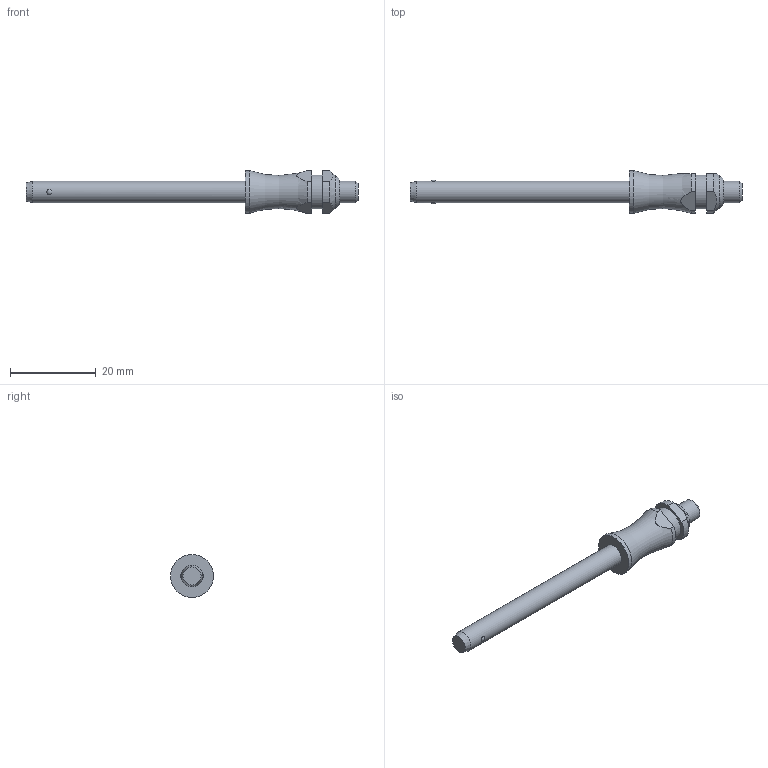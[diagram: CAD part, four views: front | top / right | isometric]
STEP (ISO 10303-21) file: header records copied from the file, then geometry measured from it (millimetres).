
FILE_DESCRIPTION( ( 'STEP AP203' ), '1' );
FILE_NAME( 'C:/Temp/Ganter_Step_05_03_2020/data/3_1/gn113_3/Stainless Steel-Ball lock pin GN 113.3-5-45 (deactivated).stp', '2020-03-12T08:18:12', ( 'License CC BY-ND 4.0' ), ( 'CADENAS' ), ' ', 'PARTsolutions', ' ' );
FILE_SCHEMA( ( 'CONFIG_CONTROL_DESIGN' ) );
Length unit declared in the file: millimetre
Products named in the file (1): _Stainless Steel-Ball lock pin GN 113.3-5-45 (deactivated)
Bounding box: 77.3 x 10 x 10 mm (x, y, z)
Volume: 2337.9 mm3; surface area: 1620.6 mm2
Topology: 1 solids, 1 shells, 29 faces, 61 edges, 40 vertices
Faces by surface type: plane 12, cylinder 10, cone 3, torus 2, sphere 2
Full cylindrical faces by diameter (mm): 5 x2, 7.9 x1, 10 x1
Entity records: 902 total; most frequent: CARTESIAN_POINT 272, DIRECTION 126, ORIENTED_EDGE 100, AXIS2_PLACEMENT_3D 54, EDGE_CURVE 50, EDGE_LOOP 44, VERTEX_POINT 38, FACE_OUTER_BOUND 35
